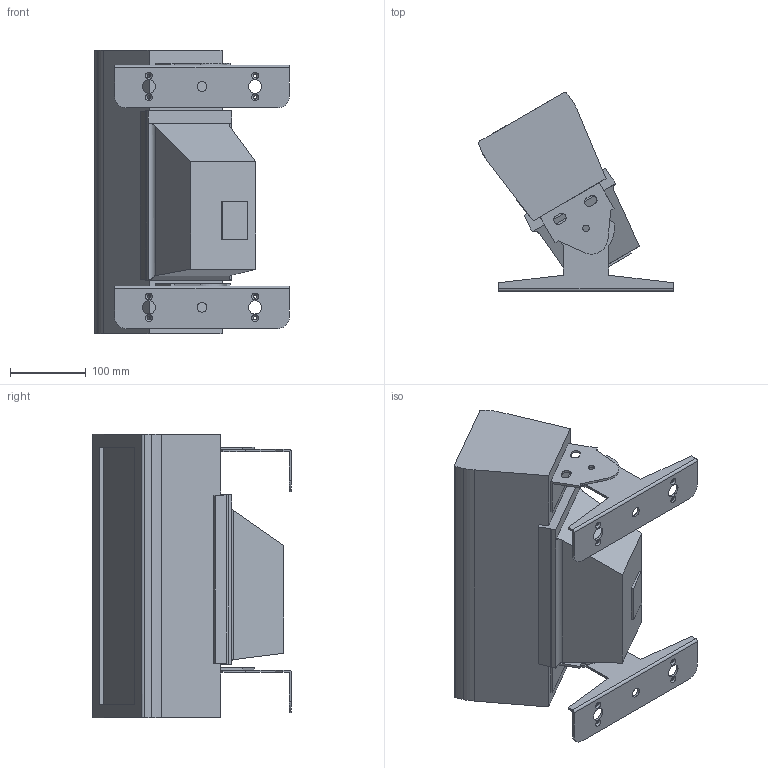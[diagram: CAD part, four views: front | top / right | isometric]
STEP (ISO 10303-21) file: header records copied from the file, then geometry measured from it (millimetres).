
FILE_DESCRIPTION(/* description */ (''),/* implementation_level */ '2;1');
FILE_NAME(/* name */ 'D:/dgooch/Documents/CADENG/PRO/Colorado Solo Batten 4/30/ColoradoSoloBatten4_30.step',/* time_stamp */ '2019-02-27T10:58:45-05:00',/* author */ ('dgooch'),/* organization */ (''),/* preprocessor_version */ 'ST-DEVELOPER v17.2',/* originating_system */ 'Autodesk Translation Framework v7.6.0.251',/* authorisation */ '');
FILE_SCHEMA (('AUTOMOTIVE_DESIGN { 1 0 10303 214 3 1 1 }'));
Length unit declared in the file: millimetre
Products named in the file (8): ColoradoSoloBatten4; Bracket; RD-SS356-040-A_1 (2); RD-SS356-036-B_3 (2); Bracket2; RD-SS356-040-A_1 (1); RD-SS356-036-B_3 (1); Main
Assembly tree (7 placements, depth 3):
  ColoradoSoloBatten4
    Bracket
      RD-SS356-040-A_1 (2)
      RD-SS356-036-B_3 (2)
    Bracket2
      RD-SS356-040-A_1 (1)
      RD-SS356-036-B_3 (1)
    Main
Bounding box: 256.41 x 261.83 x 373.2 mm (x, y, z)
Volume: 7927905 mm3; surface area: 383490.9 mm2
Topology: 3 solids, 3 shells, 148 faces, 424 edges, 286 vertices
Faces by surface type: plane 84, cylinder 54, cone 8, bspline 2
Full cylindrical faces by diameter (mm): 4.5 x8, 8.5 x4, 13 x2, 17.5 x4
Entity records: 5275 total; most frequent: CARTESIAN_POINT 963, DIRECTION 878, ORIENTED_EDGE 848, EDGE_CURVE 424, AXIS2_PLACEMENT_3D 297, VERTEX_POINT 286, LINE 284, VECTOR 284
